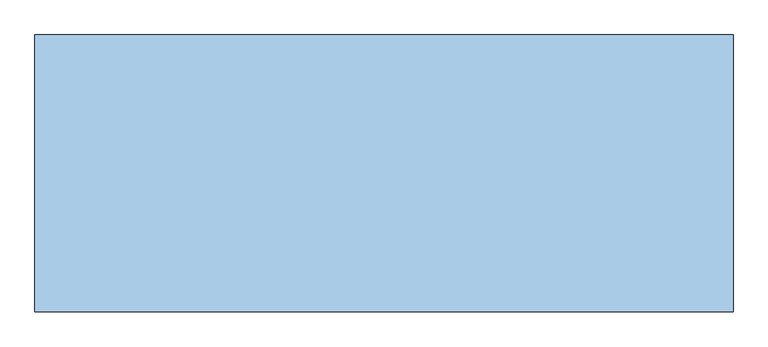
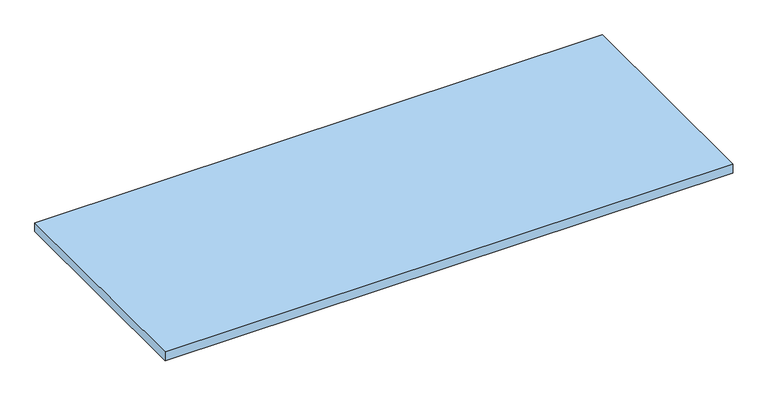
"""IFC4 building model written with IfcOpenShell, lengths in millimetres: window geometry, AC_Подоконник : ПВХ."""

from ifc_helpers import new_model, si_unit, origin, origin_with_axes, place, context, project, spatial, polyline, outline, extrude, source, transform, mapped, element, save


def window_9803d0c4(model_context):
    return source(origin(), model_context, "Body", "SweptSolid", [
        extrude(outline(polyline([(605.0, 0.0), (605.0, -480.0), (-605.0, -480.0), (-605.0, 0.0), (605.0, 0.0)])), origin_with_axes(), (0.0, 0.0, 1.0), 20.0),
    ])


if __name__ == "__main__":
    model = new_model("IFC4")
    model_context = context("Model", 3, world=origin())
    ifc_project = project(units=[si_unit("LENGTHUNIT", "METRE", prefix="MILLI")], contexts=[model_context])
    site = spatial("IfcSite", under=ifc_project)
    building = spatial("IfcBuilding", under=site)
    placement = place(None, origin())
    window_shape = window_9803d0c4(model_context)
    element("IfcWindow", 1, ObjectType="AC_Подоконник : ПВХ", at=placement, inside=building, context=model_context, shape_type="MappedRepresentation", body=[
        mapped(window_shape, transform((0.0, 0.0, 0.0), x_axis=(1.0, 0.0, 0.0), y_axis=(0.0, 1.0, 0.0), z_axis=(0.0, 0.0, 1.0))),
    ])
    save(model, "model.ifc")
